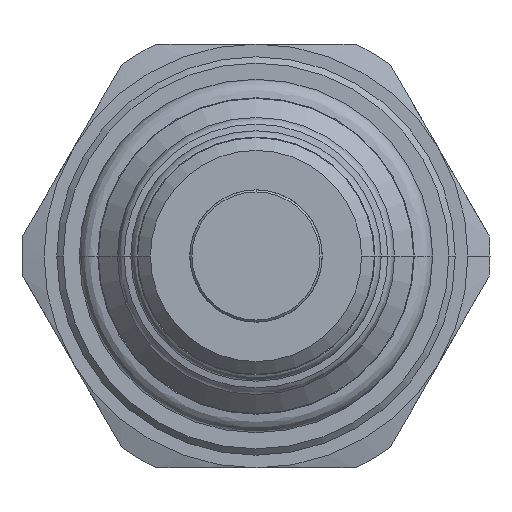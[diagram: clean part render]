
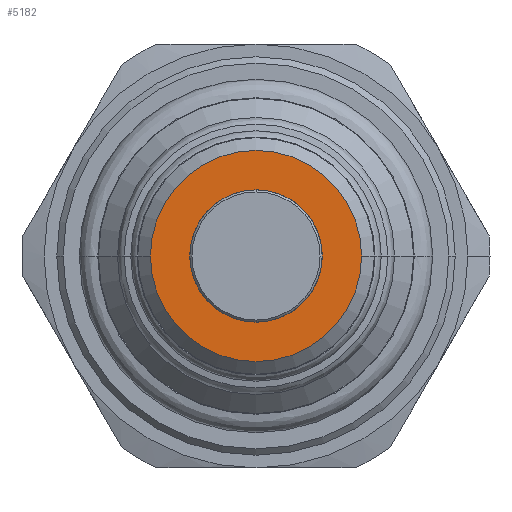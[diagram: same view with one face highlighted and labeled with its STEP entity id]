
A CAD part, front view. The second image highlights one B-rep face of the part: STEP entity #5182.
In plain terms, the highlighted planar face has unit normal (0, -1, 0).
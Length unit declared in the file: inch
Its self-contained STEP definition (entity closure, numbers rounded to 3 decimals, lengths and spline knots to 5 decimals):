
#1858=CARTESIAN_POINT('',(0.,-1.599,0.));
#1859=DIRECTION('',(0.,1.,0.));
#1860=DIRECTION('',(-1.,0.,0.));
#1861=AXIS2_PLACEMENT_3D('',#1858,#1859,#1860);
#1876=CARTESIAN_POINT('',(0.,-1.599,0.));
#1877=DIRECTION('',(0.,-1.,0.));
#1878=DIRECTION('',(-0.994,0.,0.109));
#1879=AXIS2_PLACEMENT_3D('',#1876,#1877,#1878);
#1881=DIRECTION('',(-0.866,0.,0.5));
#1882=VECTOR('',#1881,0.25179);
#1883=CARTESIAN_POINT('',(0.0629,-1.599,-0.14284));
#1884=LINE('',#1883,#1882);
#1885=CARTESIAN_POINT('',(0.,-1.599,0.));
#1886=DIRECTION('',(0.,-1.,0.));
#1887=DIRECTION('',(0.403,0.,-0.915));
#1888=AXIS2_PLACEMENT_3D('',#1885,#1886,#1887);
#1890=DIRECTION('',(0.,0.,-1.));
#1891=VECTOR('',#1890,0.25179);
#1892=CARTESIAN_POINT('',(0.09225,-1.599,0.12589));
#1893=LINE('',#1892,#1891);
#1894=CARTESIAN_POINT('',(0.,-1.599,0.));
#1895=DIRECTION('',(0.,-1.,0.));
#1896=DIRECTION('',(0.591,0.,0.807));
#1897=AXIS2_PLACEMENT_3D('',#1894,#1895,#1896);
#1899=DIRECTION('',(0.866,0.,0.5));
#1900=VECTOR('',#1899,0.25179);
#1901=CARTESIAN_POINT('',(-0.15515,-1.599,0.01694));
#1902=LINE('',#1901,#1900);
#1903=CARTESIAN_POINT('',(0.,-1.599,0.));
#1904=DIRECTION('',(0.,1.,0.));
#1905=DIRECTION('',(1.,0.,0.));
#1906=AXIS2_PLACEMENT_3D('',#1903,#1904,#1905);
#2585=CARTESIAN_POINT('',(0.249,-1.599,0.));
#2586=CARTESIAN_POINT('',(-0.249,-1.599,0.));
#2587=VERTEX_POINT('',#2585);
#2588=VERTEX_POINT('',#2586);
#2673=CARTESIAN_POINT('',(-0.15515,-1.599,0.01694));
#2674=CARTESIAN_POINT('',(-0.15515,-1.599,-0.01694));
#2675=VERTEX_POINT('',#2673);
#2676=VERTEX_POINT('',#2674);
#2677=CARTESIAN_POINT('',(0.0629,-1.599,-0.14284));
#2678=CARTESIAN_POINT('',(0.09225,-1.599,-0.12589));
#2679=VERTEX_POINT('',#2677);
#2680=VERTEX_POINT('',#2678);
#2681=CARTESIAN_POINT('',(0.09225,-1.599,0.12589));
#2682=CARTESIAN_POINT('',(0.0629,-1.599,0.14284));
#2683=VERTEX_POINT('',#2681);
#2684=VERTEX_POINT('',#2682);
#5158=CARTESIAN_POINT('',(0.,-1.599,0.));
#5159=DIRECTION('',(0.,-1.,0.));
#5160=DIRECTION('',(0.,0.,-1.));
#5161=AXIS2_PLACEMENT_3D('',#5158,#5159,#5160);
#5162=PLANE('',#5161);
#5164=ORIENTED_EDGE('',*,*,#5163,.T.);
#5165=ORIENTED_EDGE('',*,*,#5148,.T.);
#5166=EDGE_LOOP('',(#5164,#5165));
#5167=FACE_OUTER_BOUND('',#5166,.F.);
#5169=ORIENTED_EDGE('',*,*,#5168,.T.);
#5171=ORIENTED_EDGE('',*,*,#5170,.F.);
#5173=ORIENTED_EDGE('',*,*,#5172,.T.);
#5175=ORIENTED_EDGE('',*,*,#5174,.F.);
#5177=ORIENTED_EDGE('',*,*,#5176,.T.);
#5179=ORIENTED_EDGE('',*,*,#5178,.F.);
#5180=EDGE_LOOP('',(#5169,#5171,#5173,#5175,#5177,#5179));
#5181=FACE_BOUND('',#5180,.F.);
#5182=ADVANCED_FACE('',(#5167,#5181),#5162,.T.);
#1862=CIRCLE('',#1861,0.249);
#1880=CIRCLE('',#1879,0.15608);
#1889=CIRCLE('',#1888,0.15608);
#1898=CIRCLE('',#1897,0.15608);
#1907=CIRCLE('',#1906,0.249);
#5148=EDGE_CURVE('',#2588,#2587,#1862,.T.);
#5163=EDGE_CURVE('',#2587,#2588,#1907,.T.);
#5168=EDGE_CURVE('',#2675,#2676,#1880,.T.);
#5170=EDGE_CURVE('',#2679,#2676,#1884,.T.);
#5172=EDGE_CURVE('',#2679,#2680,#1889,.T.);
#5174=EDGE_CURVE('',#2683,#2680,#1893,.T.);
#5176=EDGE_CURVE('',#2683,#2684,#1898,.T.);
#5178=EDGE_CURVE('',#2675,#2684,#1902,.T.);
